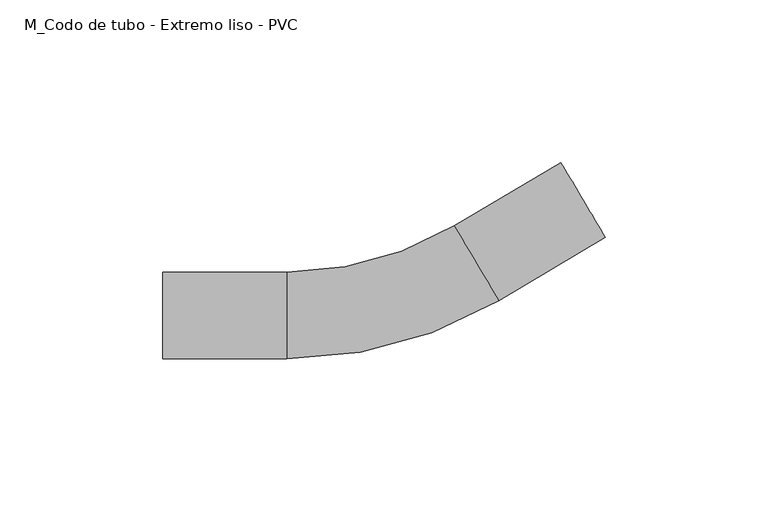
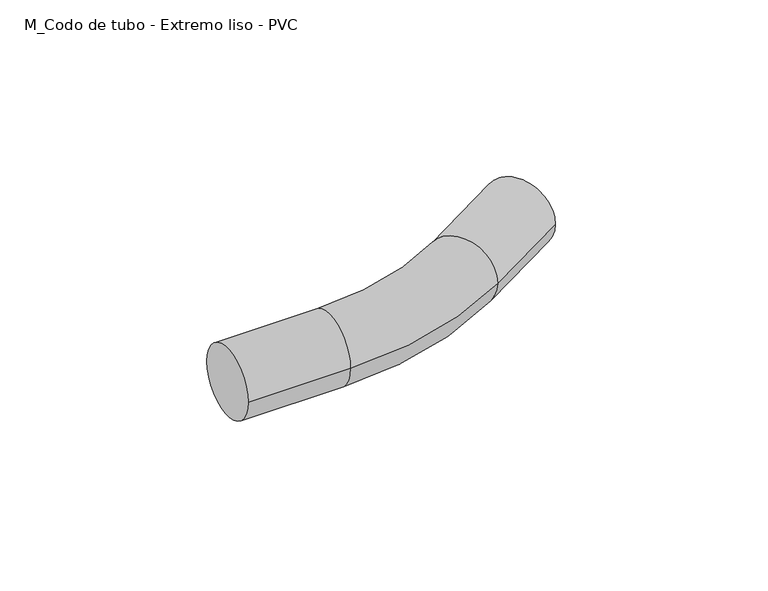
"""IFC4 building model written with IfcOpenShell, lengths in millimetres: cable carrier fitting geometry, M_Codo de tubo - Extremo liso - PVC : CODO ILUMINACION."""

from ifc_helpers import new_model, si_unit, point, frame, origin, place, context, project, spatial, circle_curve, ellipse_curve, trimmed, source, transform, mapped, element, save
from ifc_brep_helpers import plane_surface, cylinder_surface, revolved_surface, advanced_brep


def m_codo_de_tubo_extremo_liso_pvc_6da64345(model_context):
    return source(origin(), model_context, "Body", "AdvancedBrep", [
        advanced_brep(
        [(-69.4627959, -13.335, 0.0), (-69.4627959, 13.335, 0.0), (-31.3627959, -13.335, 0.0), (-31.3627959, 13.335, 0.0), (20.1652645, 27.473793, 0.0), (33.7764502, 4.5385686, 0.0), (66.5410566, 23.9831196, 0.0), (52.9298709, 46.9183441, 0.0)],
        [
            (0, 1, circle_curve(frame((-69.4627959, 0.0, 0.0), z_axis=(-1.0, 0.0, 0.0), x_axis=(0.0, 1.0, 0.0)), 13.335)),
            (1, 0, circle_curve(frame((-69.4627959, 0.0, 0.0), z_axis=(-1.0, 0.0, 0.0), x_axis=(0.0, 1.0, 0.0)), 13.335)),
            (0, 2),
            (2, 3, circle_curve(frame((-31.3627959, 0.0, 0.0), z_axis=(-1.0, 0.0, 0.0), x_axis=(0.0, 1.0, 0.0)), 13.335)),
            (3, 1),
            (3, 2, circle_curve(frame((-31.3627959, 0.0, 0.0), z_axis=(-1.0, 0.0, 0.0), x_axis=(0.0, 1.0, 0.0)), 13.335)),
            (4, 3, circle_curve(frame((-31.3627959, 114.3, 0.0), z_axis=(0.0, 0.0, -1.0), x_axis=(0.0, -1.0, 0.0)), 100.965)),
            (2, 5, circle_curve(frame((-31.3627959, 114.3, 0.0), z_axis=(0.0, 0.0, 1.0), x_axis=(0.0, -1.0, 0.0)), 127.635)),
            (5, 4, circle_curve(frame((26.9708573, 16.0061808, 0.0), z_axis=(-0.859963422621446, -0.510355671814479, 0.0), x_axis=(-0.510355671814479, 0.859963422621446, 0.0)), 13.335)),
            (4, 5, circle_curve(frame((26.9708573, 16.0061808, 0.0), z_axis=(-0.859963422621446, -0.510355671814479, 0.0), x_axis=(-0.510355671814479, 0.859963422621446, 0.0)), 13.335)),
            (6, 7, circle_curve(frame((59.7354637, 35.4507319, 0.0), z_axis=(0.8599634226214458, 0.5103556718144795, 0.0), x_axis=(-0.5103556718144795, 0.8599634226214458, 0.0)), 13.335)),
            (7, 6, circle_curve(frame((59.7354637, 35.4507319, 0.0), z_axis=(0.8599634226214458, 0.5103556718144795, 0.0), x_axis=(-0.5103556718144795, 0.8599634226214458, 0.0)), 13.335)),
            (5, 6),
            (7, 4),
        ],
        [
            plane_surface(frame((-69.4627959, 0.0, 0.0), z_axis=(-1.0, 0.0, 0.0), x_axis=(0.0, 0.0, 1.0))),
            cylinder_surface(frame((-69.4627959, 0.0, 0.0), z_axis=(-1.0, 0.0, 0.0), x_axis=(0.0, 1.0, 0.0)), 13.335),
            revolved_surface(trimmed(ellipse_curve(frame((-31.3627959, 0.0, 0.0), z_axis=(-1.0, 0.0, 0.0), x_axis=(0.0, 1.0, 0.0)), 13.335, 13.335), [point((-31.3627959, -13.335, 0.0))], [point((-31.3627959, 13.335, 0.0))], True, "CARTESIAN"), (-31.3627959, 114.3, 0.0), (0.0, 0.0, 1.0)),
            revolved_surface(trimmed(ellipse_curve(frame((-31.3627959, 0.0, 0.0), z_axis=(-1.0, 0.0, 0.0), x_axis=(0.0, 1.0, 0.0)), 13.335, 13.335), [point((-31.3627959, 13.335, 0.0))], [point((-31.3627959, -13.335, 0.0))], True, "CARTESIAN"), (-31.3627959, 114.3, 0.0), (0.0, 0.0, 1.0)),
            plane_surface(frame((59.7354637, 35.4507319, 0.0), z_axis=(0.8599634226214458, 0.5103556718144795, 0.0), x_axis=(0.0, 0.0, 1.0))),
            cylinder_surface(frame((26.9708573, 16.0061808, 0.0), z_axis=(-0.8599634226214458, -0.5103556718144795, 0.0), x_axis=(-0.5103556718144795, 0.8599634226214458, 0.0)), 13.335),
        ],
        [
            (0, [[1, 2]]),
            (1, [[-1, 3, 4, 5]]),
            (1, [[-2, -5, 6, -3]]),
            (2, [[7, -4, 8, 9]]),
            (3, [[-8, -6, -7, 10]]),
            (4, [[11, 12]]),
            (5, [[-9, 13, -12, 14]]),
            (5, [[-10, -14, -11, -13]]),
        ],
    ),
    ])


if __name__ == "__main__":
    model = new_model("IFC4")
    model_context = context("Model", 3, world=origin())
    ifc_project = project(units=[si_unit("LENGTHUNIT", "METRE", prefix="MILLI")], contexts=[model_context])
    site = spatial("IfcSite", under=ifc_project)
    building = spatial("IfcBuilding", under=site)
    placement = place(None, origin())
    m_codo_de_tubo_extremo_liso_pvc_shape = m_codo_de_tubo_extremo_liso_pvc_6da64345(model_context)
    element("IfcCableCarrierFitting", 1, ObjectType="M_Codo de tubo - Extremo liso - PVC : CODO ILUMINACION", at=placement, inside=building, context=model_context, shape_type="MappedRepresentation", body=[
        mapped(m_codo_de_tubo_extremo_liso_pvc_shape, transform((0.0, 0.0, 0.0), x_axis=(1.0, 0.0, 0.0), y_axis=(0.0, 1.0, 0.0), z_axis=(0.0, 0.0, 1.0))),
    ])
    save(model, "model.ifc")
